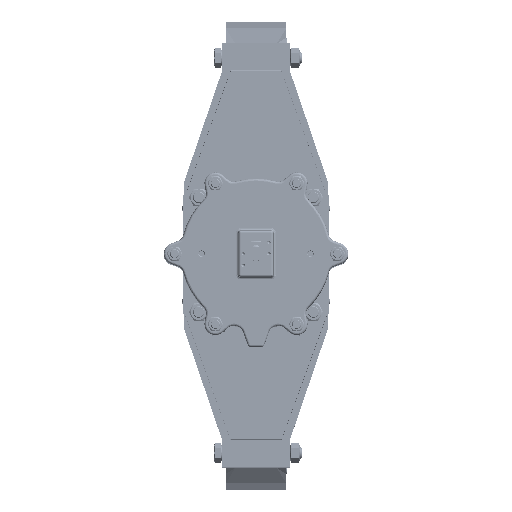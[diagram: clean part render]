
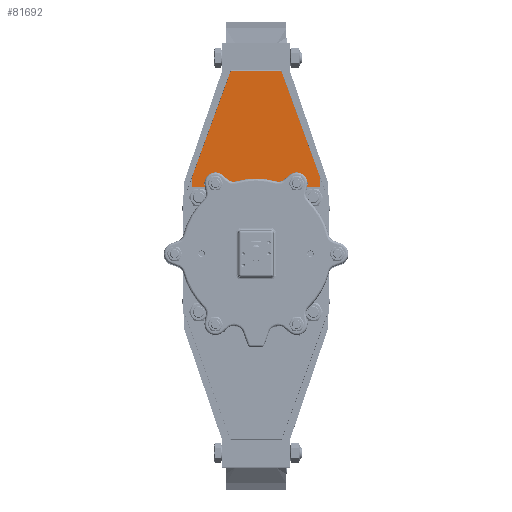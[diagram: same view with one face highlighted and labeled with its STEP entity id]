
A CAD part, top view. The second image highlights one B-rep face of the part: STEP entity #81692.
In plain terms, the highlighted planar face has unit normal (0, 0, 1).
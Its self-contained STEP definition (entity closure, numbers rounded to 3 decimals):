
#5787=PLANE('',#91384);
#10875=LINE('',#155265,#16005);
#10881=LINE('',#155277,#16011);
#10882=LINE('',#155280,#16012);
#10885=LINE('',#155286,#16015);
#10888=LINE('',#155292,#16018);
#10891=LINE('',#155298,#16021);
#10894=LINE('',#155303,#16024);
#10897=LINE('',#155308,#16027);
#16005=VECTOR('',#115763,10.);
#16011=VECTOR('',#115771,10.);
#16012=VECTOR('',#115774,10.);
#16015=VECTOR('',#115779,10.);
#16018=VECTOR('',#115784,10.);
#16021=VECTOR('',#115789,10.);
#16024=VECTOR('',#115794,10.);
#16027=VECTOR('',#115801,10.);
#22028=FACE_OUTER_BOUND('',#27412,.T.);
#27412=EDGE_LOOP('',(#75882,#75883,#75884,#75885,#75886,#75887,#75888,#75889));
#40534=VERTEX_POINT('',#155261);
#40536=VERTEX_POINT('',#155264);
#40539=VERTEX_POINT('',#155271);
#40541=VERTEX_POINT('',#155275);
#40542=VERTEX_POINT('',#155279);
#40544=VERTEX_POINT('',#155285);
#40546=VERTEX_POINT('',#155291);
#40548=VERTEX_POINT('',#155297);
#52560=EDGE_CURVE('',#40534,#40536,#10875,.T.);
#52566=EDGE_CURVE('',#40541,#40539,#10881,.T.);
#52567=EDGE_CURVE('',#40536,#40542,#10882,.T.);
#52570=EDGE_CURVE('',#40542,#40544,#10885,.T.);
#52573=EDGE_CURVE('',#40544,#40546,#10888,.T.);
#52576=EDGE_CURVE('',#40546,#40548,#10891,.T.);
#52579=EDGE_CURVE('',#40548,#40541,#10894,.T.);
#52582=EDGE_CURVE('',#40539,#40534,#10897,.T.);
#75882=ORIENTED_EDGE('',*,*,#52566,.F.);
#75883=ORIENTED_EDGE('',*,*,#52579,.F.);
#75884=ORIENTED_EDGE('',*,*,#52576,.F.);
#75885=ORIENTED_EDGE('',*,*,#52573,.F.);
#75886=ORIENTED_EDGE('',*,*,#52570,.F.);
#75887=ORIENTED_EDGE('',*,*,#52567,.F.);
#75888=ORIENTED_EDGE('',*,*,#52560,.F.);
#75889=ORIENTED_EDGE('',*,*,#52582,.F.);
#81692=ADVANCED_FACE('',(#22028),#5787,.F.);
#91384=AXIS2_PLACEMENT_3D('',#155307,#115799,#115800);
#115763=DIRECTION('',(1.,0.,0.));
#115771=DIRECTION('',(1.,0.,0.));
#115774=DIRECTION('',(0.342,-0.94,0.));
#115779=DIRECTION('',(0.,-1.,0.));
#115784=DIRECTION('',(-1.,0.,0.));
#115789=DIRECTION('',(0.,1.,0.));
#115794=DIRECTION('',(0.342,0.94,0.));
#115799=DIRECTION('center_axis',(0.,0.,
-1.));
#115800=DIRECTION('ref_axis',(0.,1.,0.));
#115801=DIRECTION('',(1.,0.,0.));
#155261=CARTESIAN_POINT('',(43.51,321.219,1316.7));
#155264=CARTESIAN_POINT('',(43.92,321.219,1316.7));
#155265=CARTESIAN_POINT('',(43.92,321.219,1316.7));
#155271=CARTESIAN_POINT('',(-43.51,321.219,1316.7));
#155275=CARTESIAN_POINT('',(-43.92,321.219,1316.7));
#155277=CARTESIAN_POINT('',(43.92,321.219,1316.7));
#155279=CARTESIAN_POINT('',(111.,136.919,1316.7));
#155280=CARTESIAN_POINT('',(111.,136.919,1316.7));
#155285=CARTESIAN_POINT('',(111.,117.919,1316.7));
#155286=CARTESIAN_POINT('',(111.,117.919,1316.7));
#155291=CARTESIAN_POINT('',(-111.,117.919,1316.7));
#155292=CARTESIAN_POINT('',(-111.,117.919,1316.7));
#155297=CARTESIAN_POINT('',(-111.,136.919,1316.7));
#155298=CARTESIAN_POINT('',(-111.,136.919,1316.7));
#155303=CARTESIAN_POINT('',(-43.92,321.219,1316.7));
#155307=CARTESIAN_POINT('Origin',(0.,201.447,
1316.7));
#155308=CARTESIAN_POINT('',(43.51,321.219,1316.7));
